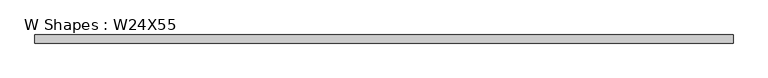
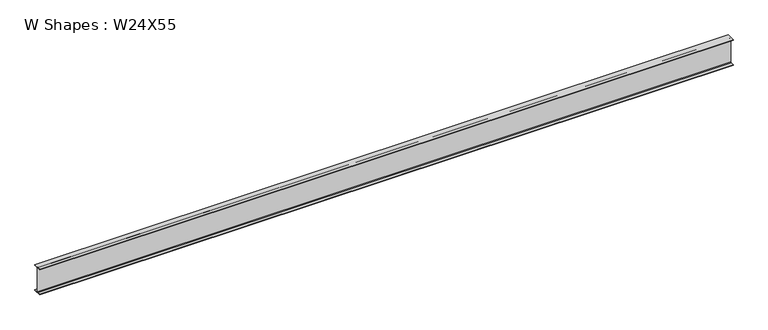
"""IFC4 building model written with IfcOpenShell, lengths in millimetres: beam geometry, W Shapes : W24X55."""

from ifc_helpers import new_model, si_unit, point, frame, frame_2d, origin, place, context, project, spatial, polyline, circle_curve, trimmed, segment, composite_curve, outline, extrude, source, transform, mapped, element, save


def w_shapes_w24x55_d6c5d518(model_context):
    return source(origin(), model_context, "Body", "SweptSolid", [
        extrude(outline(composite_curve([segment(polyline([(89.027, -286.893), (89.027, -299.72), (-89.027, -299.72), (-89.027, -286.893), (-17.8435, -286.893)]), True, "CONTINUOUS"), segment(trimmed(circle_curve(frame_2d((-17.8435, -274.066)), 12.827), [point((-17.8435, -286.893))], [point((-5.0165, -274.066))], True, "CARTESIAN"), True, "CONTINUOUS"), segment(polyline([(-5.0165, -274.066), (-5.0165, 274.066)]), True, "CONTINUOUS"), segment(trimmed(circle_curve(frame_2d((-17.8435, 274.066)), 12.827), [point((-5.0165, 274.066))], [point((-17.8435, 286.893))], True, "CARTESIAN"), True, "CONTINUOUS"), segment(polyline([(-17.8435, 286.893), (-89.027, 286.893), (-89.027, 299.72), (89.027, 299.72), (89.027, 286.893), (17.8435, 286.893)]), True, "CONTINUOUS"), segment(trimmed(circle_curve(frame_2d((17.8435, 274.066)), 12.827), [point((17.8435, 286.893))], [point((5.0165, 274.066))], True, "CARTESIAN"), True, "CONTINUOUS"), segment(polyline([(5.0165, 274.066), (5.0165, -274.066)]), True, "CONTINUOUS"), segment(trimmed(circle_curve(frame_2d((17.8435, -274.066)), 12.827), [point((5.0165, -274.066))], [point((17.8435, -286.893))], True, "CARTESIAN"), True, "CONTINUOUS"), segment(polyline([(17.8435, -286.893), (89.027, -286.893)]), True, "CONTINUOUS")], self_intersect=False)), frame((-7645.825, 0.0, 0.0), z_axis=(1.0, 0.0, 0.0), x_axis=(0.0, 1.0, 0.0)), (0.0, 0.0, 1.0), 15291.65),
    ])


if __name__ == "__main__":
    model = new_model("IFC4")
    model_context = context("Model", 3, world=origin())
    ifc_project = project(units=[si_unit("LENGTHUNIT", "METRE", prefix="MILLI")], contexts=[model_context])
    site = spatial("IfcSite", under=ifc_project)
    building = spatial("IfcBuilding", under=site)
    placement = place(None, origin())
    w_shapes_w24x55_shape = w_shapes_w24x55_d6c5d518(model_context)
    element("IfcBeam", 1, ObjectType="W Shapes : W24X55", at=placement, inside=building, context=model_context, shape_type="MappedRepresentation", body=[
        mapped(w_shapes_w24x55_shape, transform((0.0, 0.0, 0.0), x_axis=(1.0, 0.0, 0.0), y_axis=(0.0, 1.0, 0.0), z_axis=(0.0, 0.0, 1.0))),
    ])
    save(model, "model.ifc")
